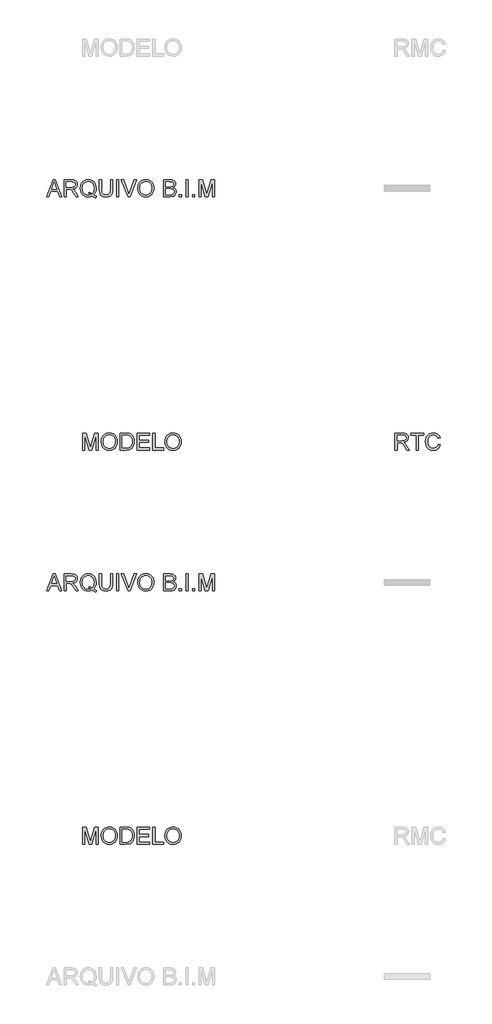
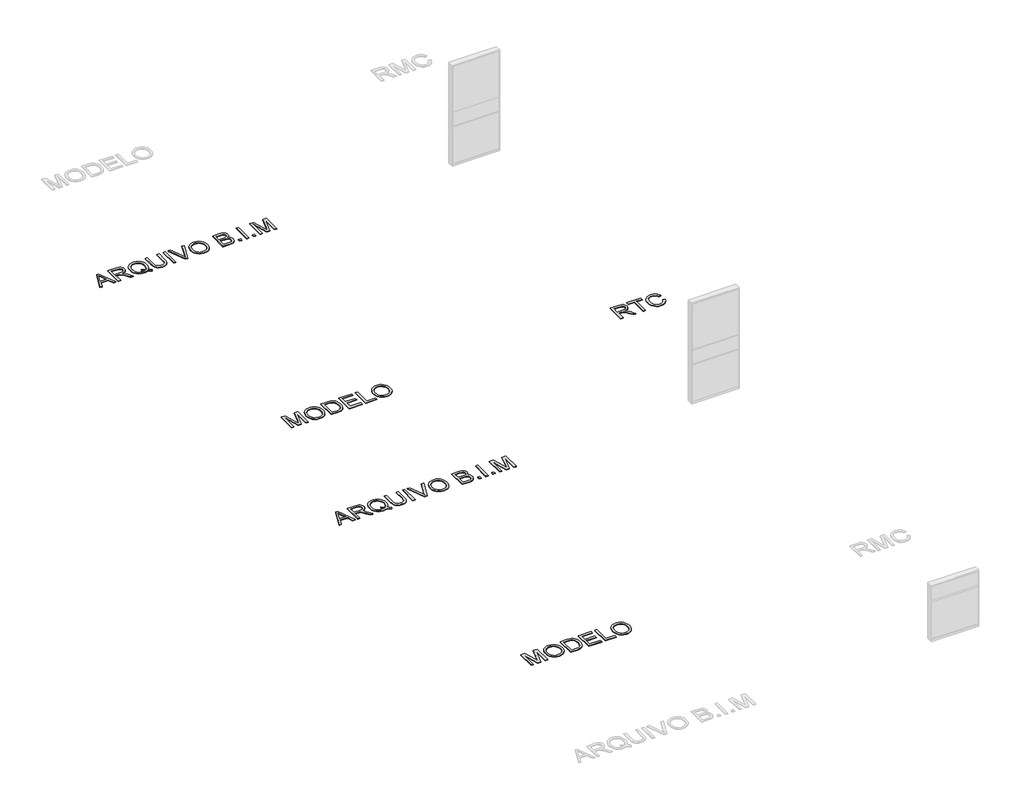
# One storey, part 11 of 15: 5 proxies.
"""IFC4 building model written with IfcOpenShell, lengths in millimetres."""

from ifc_helpers import new_model, si_unit, origin, origin_with_axes, place, context, project, spatial, polyline, outline, extrude, element, save

model = new_model("IFC4")

# Units and contexts
model_context = context("Model", 3, world=origin())
ifc_project = project(units=[si_unit("LENGTHUNIT", "METRE", prefix="MILLI")], contexts=[model_context])

# Site, building, storey
site = spatial("IfcSite", under=ifc_project)
building = spatial("IfcBuilding", under=site)
storey = spatial("IfcBuildingStorey", under=building, Name="Marelli - Linha REASONS - Planta Baixa", Elevation=0.0)

# Proxies
placement = place(None, origin())
element("IfcBuildingElementProxy", 1, Name="300mm Arial", ObjectType="300mm Arial", at=placement, inside=storey, context=model_context, shape_type="SweptSolid", body=[
    extrude(outline(polyline([(9390.580402, -42280.5663201), (9510.8778144, -41979.1973896), (9542.9571244, -41979.1973896), (9663.2545368, -42280.5663201), (9623.449705, -42280.5663201), (9588.9423738, -42186.3885293), (9464.8189886, -42186.3885293), (9430.3852339, -42280.5663201), (9390.580402, -42280.5663201)]), holes=[polyline([(9478.6513517, -42148.717413), (9575.1835872, -42148.717413), (9548.0338959, -42074.6259792), (9526.9174694, -42016.8685059), (9508.1554877, -42068.1512561), (9478.6513517, -42148.717413)])]), origin_with_axes(), (0.0, 0.0, 1.0), 10.0),
    extrude(outline(polyline([(9703.5008271, -42280.5663201), (9703.5008271, -41979.1973896), (9833.3631714, -41979.1973896), (9868.2659757, -41981.2299376), (9893.6590304, -41987.3275817), (9912.2186771, -41998.5847708), (9926.6212572, -42016.0959537), (9935.8642923, -42037.8101885), (9938.945304, -42061.6765329), (9933.8409413, -42091.3646099), (9918.5278533, -42115.9759154), (9906.9280741, -42126.0052983), (9892.5461874, -42134.0205273), (9855.4360911, -42144.0085235), (9876.8468232, -42160.1217548), (9907.3810288, -42198.8965171), (9957.6337094, -42280.5663201), (9913.855752, -42280.5663201), (9874.6395313, -42218.0999573), (9846.3126176, -42176.750021), (9826.4102017, -42157.2154871), (9808.4943485, -42150.0417882), (9786.642158, -42148.717413), (9741.1719434, -42148.717413), (9741.1719434, -42280.5663201), (9703.5008271, -42280.5663201)]), holes=[polyline([(9741.1719434, -42111.0462967), (9825.4904967, -42111.0462967), (9849.706329, -42109.7127245), (9868.4959019, -42105.7120078), (9882.6409647, -42098.7774322), (9892.9232664, -42088.6422832), (9899.1864574, -42076.3826157), (9901.2741877, -42063.0744845), (9897.2918651, -42044.6987789), (9885.3448973, -42029.8915286), (9864.7894908, -42020.1242616), (9834.9818522, -42016.8685059), (9741.1719434, -42016.8685059), (9741.1719434, -42111.0462967)])]), origin_with_axes(), (0.0, 0.0, 1.0), 10.0),
    extrude(outline(polyline([(10231.2643374, -42244.4403081), (10255.5997314, -42263.036743), (10277.9853508, -42275.8574305), (10267.8318077, -42303.4485802), (10236.7641732, -42289.0460001), (10205.8069033, -42268.205485), (10170.9500843, -42281.0077785), (10132.5983863, -42285.2752096), (10094.0627473, -42280.3547879), (10059.2427164, -42265.5935229), (10030.0788713, -42241.9203165), (10008.5117893, -42210.2640708), (9995.185264, -42172.3630282), (9990.7430889, -42129.9554312), (9995.176067, -42087.511046), (10008.4750011, -42049.0581805), (10029.9593096, -42016.9512794), (10058.9484108, -41993.5447874), (10093.639683, -41979.2525719), (10132.2305043, -41974.4885001), (10171.1248282, -41979.3629365), (10205.9908443, -41993.9862458), (10234.9339603, -42017.3835407), (10256.0595839, -42048.5799339), (10268.9722419, -42085.9199564), (10273.2764612, -42127.7481393), (10270.6644991, -42162.5313819), (10262.8286126, -42193.5990164), (10249.7136194, -42220.9142546), (10231.2643374, -42244.4403081)]), holes=[polyline([(10142.9726585, -42194.3347804), (10174.6472983, -42206.3093393), (10200.215097, -42222.9559996), (10215.6983305, -42205.4816049), (10226.7577829, -42184.1076609), (10233.3934544, -42158.8341679), (10235.6053449, -42129.6611256), (10232.478348, -42096.5057608), (10223.0973571, -42067.8201623), (10207.6922985, -42044.3308969), (10186.4930986, -42026.7645316), (10160.934497, -42015.8108452), (10132.4512335, -42012.1596164), (10110.966925, -42014.0059242), (10091.3956028, -42019.5448474), (10073.7372671, -42028.7763863), (10057.9919177, -42041.7005406), (10045.0516685, -42058.2897193), (10035.8086334, -42078.5163313), (10030.2628123, -42102.3803764), (10028.4142052, -42129.8818548), (10030.2421189, -42156.6659634), (10035.7258599, -42180.1437324), (10044.8654282, -42200.3151621), (10057.6608239, -42217.1802523), (10073.2981079, -42230.4906827), (10090.9633415, -42239.9981331), (10110.6565245, -42245.7026032), (10132.3776571, -42247.6040933), (10153.2917485, -42245.6727128), (10172.918253, -42239.8785714), (10153.6228423, -42229.853787), (10133.2605739, -42223.1767288), (10142.9726585, -42194.3347804)])]), origin_with_axes(), (0.0, 0.0, 1.0), 10.0),
    extrude(outline(polyline([(10527.5564963, -41979.1973896), (10565.2276126, -41979.1973896), (10565.2276126, -42153.0584205), (10562.6708327, -42193.7737604), (10555.0004931, -42225.1265034), (10540.6714894, -42249.3147446), (10518.1387172, -42268.5365788), (10487.3469942, -42281.0905519), (10448.2411381, -42285.2752096), (10409.9906077, -42281.6331779), (10379.4104168, -42270.7070826), (10356.4913685, -42252.8740029), (10341.2242657, -42228.5110178), (10332.6434182, -42195.8338995), (10329.7831357, -42153.0584205), (10329.7831357, -41979.1973896), (10367.454252, -41979.1973896), (10367.454252, -42151.7340454), (10369.3120561, -42185.588386), (10374.8854683, -42209.1604248), (10384.9838291, -42225.4851883), (10400.4164788, -42237.597703), (10420.5396239, -42245.1024957), (10444.709471, -42247.6040933), (10483.0243808, -42242.6560805), (10497.3671801, -42236.4710644), (10508.500209, -42227.812042), (10516.8373347, -42215.6351479), (10522.7924245, -42198.8965171), (10527.5564963, -42151.7340454), (10527.5564963, -41979.1973896)])), origin_with_axes(), (0.0, 0.0, 1.0), 10.0),
    extrude(outline(polyline([(10635.8609557, -42280.5663201), (10635.8609557, -41979.1973896), (10673.532072, -41979.1973896), (10673.532072, -42280.5663201), (10635.8609557, -42280.5663201)])), origin_with_axes(), (0.0, 0.0, 1.0), 10.0),
    extrude(outline(polyline([(10837.9017474, -42280.5663201), (10717.972217, -41979.1973896), (10758.2920837, -41979.1973896), (10838.563935, -42196.3213432), (10854.8243192, -42245.2496485), (10870.8639742, -42196.3213432), (10951.3565547, -41979.1973896), (10991.6764214, -41979.1973896), (10876.8236625, -42280.5663201), (10837.9017474, -42280.5663201)])), origin_with_axes(), (0.0, 0.0, 1.0), 10.0),
    extrude(outline(polyline([(11012.5721187, -42133.8549804), (11015.0829134, -42098.5061192), (11022.6152972, -42067.213157), (11035.1692703, -42039.9760937), (11052.7448326, -42016.7949295), (11074.288922, -41998.2858666), (11098.7484761, -41985.0651074), (11126.1234951, -41977.1326519), (11156.4139789, -41974.4885001), (11195.9428992, -41979.454907), (11231.3883295, -41994.3541278), (11260.8188891, -42018.1376988), (11282.3031976, -42049.7571563), (11295.4365848, -42087.68579), (11299.8143806, -42130.3968896), (11295.2066586, -42173.6782064), (11281.3834926, -42212.140269), (11259.1082378, -42243.8149088), (11229.1442493, -42266.733957), (11194.0023217, -42280.6398965), (11156.1932497, -42285.2752096), (11116.057324, -42280.1524528), (11080.4095587, -42264.7841825), (11051.0525754, -42240.5591531), (11029.7889961, -42208.8661192), (11016.8763381, -42172.3998164), (11012.5721187, -42133.8549804)]), holes=[polyline([(11050.2432351, -42134.2228624), (11052.126331, -42159.1974513), (11057.7756189, -42181.3669401), (11067.1910987, -42200.7313286), (11080.3727705, -42217.2906169), (11096.3963306, -42230.5527628), (11114.3374757, -42240.0257242), (11134.1962056, -42245.709501), (11155.9725205, -42247.6040933), (11178.1213158, -42245.6911069), (11198.2145706, -42239.9521478), (11216.2522846, -42230.3872159), (11232.2344581, -42216.9963113), (11245.3195608, -42200.0875351), (11254.6660627, -42179.9689885), (11260.2739639, -42156.6406715), (11262.1432643, -42130.102584), (11258.9426909, -42096.7540812), (11249.3409708, -42067.9305269), (11233.5864244, -42044.358488), (11211.9273719, -42026.7645316), (11185.7985532, -42015.8108452), (11156.6347081, -42012.1596164), (11135.6148506, -42013.9185522), (11116.1125063, -42019.1953595), (11098.1276752, -42027.9900385), (11081.6603574, -42040.302589), (11067.9153664, -42056.7262208), (11058.0975156, -42077.8541437), (11052.2068052, -42103.6863575), (11050.2432351, -42134.2228624)])]), origin_with_axes(), (0.0, 0.0, 1.0), 10.0),
    extrude(outline(polyline([(11469.334404, -42280.5663201), (11469.334404, -41979.1973896), (11584.3343157, -41979.1973896), (11615.9629702, -41981.4138786), (11640.6570491, -41988.0633457), (11659.5845778, -41999.3113377), (11673.9135815, -42015.3234015), (11682.9358874, -42034.1589597), (11685.9433227, -42053.8774346), (11683.414134, -42072.0232141), (11675.8265679, -42089.0837416), (11663.125442, -42104.0105535), (11645.2555741, -42115.7551862), (11666.6019268, -42126.9020107), (11682.3748674, -42143.8613707), (11692.1145432, -42165.5112261), (11695.3611018, -42190.7295368), (11693.1446128, -42211.7447958), (11686.4951457, -42231.2333445), (11676.5715289, -42247.8064284), (11664.5325906, -42260.0752929), (11649.7897196, -42268.9596431), (11631.7543048, -42275.3791839), (11583.4513989, -42280.5663201), (11469.334404, -42280.5663201)]), holes=[polyline([(11507.0055203, -42101.6285176), (11575.7994534, -42101.6285176), (11615.9721672, -42098.3911561), (11630.0344565, -42092.8085468), (11640.1420143, -42084.4484284), (11646.2396584, -42073.4395597), (11648.2722064, -42059.9106994), (11646.3776141, -42046.7773121), (11640.6938373, -42035.3361821), (11631.4783933, -42026.4058467), (11618.9887996, -42020.8048433), (11570.575529, -42016.8685059), (11507.0055203, -42016.8685059), (11507.0055203, -42101.6285176)]), polyline([(11507.0055203, -42242.8952038), (11584.2607393, -42242.8952038), (11612.2197709, -42241.4236758), (11635.8745832, -42233.2199073), (11651.5463562, -42216.4812765), (11656.1540782, -42204.6538704), (11657.6899855, -42191.0974188), (11655.8873637, -42175.3520694), (11650.4794984, -42161.814012), (11641.0341282, -42151.2282076), (11627.1189917, -42144.3396173), (11607.4097138, -42140.5596298), (11580.5819193, -42139.2996339), (11507.0055203, -42139.2996339), (11507.0055203, -42242.8952038)])]), origin_with_axes(), (0.0, 0.0, 1.0), 10.0),
    extrude(outline(polyline([(11751.8677763, -42280.5663201), (11751.8677763, -42242.8952038), (11789.5388926, -42242.8952038), (11789.5388926, -42280.5663201), (11751.8677763, -42280.5663201)])), origin_with_axes(), (0.0, 0.0, 1.0), 10.0),
    extrude(outline(polyline([(11869.5900147, -42280.5663201), (11869.5900147, -41979.1973896), (11907.261131, -41979.1973896), (11907.261131, -42280.5663201), (11869.5900147, -42280.5663201)])), origin_with_axes(), (0.0, 0.0, 1.0), 10.0),
    extrude(outline(polyline([(11987.3122532, -42280.5663201), (11987.3122532, -42242.8952038), (12024.9833695, -42242.8952038), (12024.9833695, -42280.5663201), (11987.3122532, -42280.5663201)])), origin_with_axes(), (0.0, 0.0, 1.0), 10.0),
    extrude(outline(polyline([(12100.3256021, -42280.5663201), (12100.3256021, -41979.1973896), (12165.1464096, -41979.1973896), (12226.803432, -42191.6124536), (12239.2378435, -42235.9790223), (12252.7023245, -42187.9336337), (12313.3292773, -41979.1973896), (12378.1500848, -41979.1973896), (12378.1500848, -42280.5663201), (12340.4789685, -42280.5663201), (12340.4789685, -42016.8685059), (12264.7688539, -42280.5663201), (12213.706833, -42280.5663201), (12137.9967184, -42016.8685059), (12137.9967184, -42280.5663201), (12100.3256021, -42280.5663201)])), origin_with_axes(), (0.0, 0.0, 1.0), 10.0),
])
element("IfcBuildingElementProxy", 2, Name="300mm Arial", ObjectType="300mm Arial", at=placement, inside=storey, context=model_context, shape_type="SweptSolid", body=[
    extrude(outline(polyline([(10033.1230948, -39780.5663201), (10033.1230948, -39479.1973896), (10097.9439023, -39479.1973896), (10159.6009247, -39691.6124536), (10172.0353362, -39735.9790223), (10185.4998172, -39687.9336337), (10246.12677, -39479.1973896), (10310.9475775, -39479.1973896), (10310.9475775, -39780.5663201), (10273.2764612, -39780.5663201), (10273.2764612, -39516.8685059), (10197.5663466, -39780.5663201), (10146.5043257, -39780.5663201), (10070.7942111, -39516.8685059), (10070.7942111, -39780.5663201), (10033.1230948, -39780.5663201)])), origin_with_axes(), (0.0, 0.0, 1.0), 10.0),
    extrude(outline(polyline([(10362.7453625, -39633.8549804), (10365.2561571, -39598.5061192), (10372.7885409, -39567.213157), (10385.342514, -39539.9760937), (10402.9180763, -39516.7949295), (10424.4621657, -39498.2858666), (10448.9217198, -39485.0651074), (10476.2967388, -39477.1326519), (10506.5872226, -39474.4885001), (10546.116143, -39479.454907), (10581.5615732, -39494.3541278), (10610.9921328, -39518.1376988), (10632.4764413, -39549.7571563), (10645.6098286, -39587.68579), (10649.9876243, -39630.3968896), (10645.3799023, -39673.6782064), (10631.5567363, -39712.140269), (10609.2814815, -39743.8149088), (10579.317493, -39766.733957), (10544.1755654, -39780.6398965), (10506.3664934, -39785.2752096), (10466.2305677, -39780.1524528), (10430.5828024, -39764.7841825), (10401.2258192, -39740.5591531), (10379.9622398, -39708.8661192), (10367.0495818, -39672.3998164), (10362.7453625, -39633.8549804)]), holes=[polyline([(10400.4164788, -39634.2228624), (10402.2995747, -39659.1974513), (10407.9488626, -39681.3669401), (10417.3643424, -39700.7313286), (10430.5460142, -39717.2906169), (10446.5695743, -39730.5527628), (10464.5107194, -39740.0257242), (10484.3694493, -39745.709501), (10506.1457642, -39747.6040933), (10528.2945596, -39745.6911069), (10548.3878143, -39739.9521478), (10566.4255284, -39730.3872159), (10582.4077018, -39716.9963113), (10595.4928045, -39700.0875351), (10604.8393064, -39679.9689885), (10610.4472076, -39656.6406715), (10612.316508, -39630.102584), (10609.1159346, -39596.7540812), (10599.5142146, -39567.9305269), (10583.7596681, -39544.358488), (10562.1006157, -39526.7645316), (10535.9717969, -39515.8108452), (10506.8079518, -39512.1596164), (10485.7880943, -39513.9185522), (10466.28575, -39519.1953595), (10448.300919, -39527.9900385), (10431.8336012, -39540.302589), (10418.0886101, -39556.7262208), (10408.2707594, -39577.8541437), (10402.3800489, -39603.6863575), (10400.4164788, -39634.2228624)])]), origin_with_axes(), (0.0, 0.0, 1.0), 10.0),
    extrude(outline(polyline([(10701.7854092, -39780.5663201), (10701.7854092, -39479.1973896), (10805.7488611, -39479.1973896), (10859.5332088, -39483.5383972), (10883.555903, -39491.9077126), (10903.826201, -39505.0962821), (10924.666716, -39528.0521186), (10939.5107545, -39556.5997614), (10948.3951047, -39590.1873876), (10951.3565547, -39628.2631741), (10949.3515979, -39660.6091985), (10943.3367273, -39689.0740679), (10934.1764656, -39713.3082943), (10922.7353355, -39732.9623899), (10909.5651601, -39748.477813), (10895.2177623, -39760.2960221), (10878.745846, -39769.0608107), (10859.202115, -39775.4159721), (10810.7520562, -39780.5663201), (10701.7854092, -39780.5663201)]), holes=[polyline([(10739.4565255, -39742.8952038), (10806.1167431, -39742.8952038), (10833.6894986, -39741.5340404), (10854.60359, -39737.4505502), (10870.3857276, -39730.8838566), (10882.5626217, -39722.0730828), (10895.6500236, -39705.7667134), (10905.48167, -39684.6594839), (10911.6344963, -39658.6594239), (10913.6854384, -39627.6745629), (10909.6663276, -39586.6189322), (10897.6089953, -39556.3054558), (10879.7943096, -39535.4833349), (10858.5031392, -39522.9017706), (10836.8348897, -39518.3768221), (10805.0866735, -39516.8685059), (10739.4565255, -39516.8685059), (10739.4565255, -39742.8952038)])]), origin_with_axes(), (0.0, 0.0, 1.0), 10.0),
    extrude(outline(polyline([(11003.1543397, -39780.5663201), (11003.1543397, -39479.1973896), (11219.7632584, -39479.1973896), (11219.7632584, -39516.8685059), (11040.825456, -39516.8685059), (11040.825456, -39606.3374072), (11210.3454794, -39606.3374072), (11210.3454794, -39644.0085235), (11040.825456, -39644.0085235), (11040.825456, -39742.8952038), (11224.472148, -39742.8952038), (11224.472148, -39780.5663201), (11003.1543397, -39780.5663201)])), origin_with_axes(), (0.0, 0.0, 1.0), 10.0),
    extrude(outline(polyline([(11280.9788224, -39780.5663201), (11280.9788224, -39479.1973896), (11318.6499387, -39479.1973896), (11318.6499387, -39742.8952038), (11469.334404, -39742.8952038), (11469.334404, -39780.5663201), (11280.9788224, -39780.5663201)])), origin_with_axes(), (0.0, 0.0, 1.0), 10.0),
    extrude(outline(polyline([(11497.5877412, -39633.8549804), (11500.0985358, -39598.5061192), (11507.6309197, -39567.213157), (11520.1848927, -39539.9760937), (11537.7604551, -39516.7949295), (11559.3045444, -39498.2858666), (11583.7640986, -39485.0651074), (11611.1391175, -39477.1326519), (11641.4296013, -39474.4885001), (11680.9585217, -39479.454907), (11716.4039519, -39494.3541278), (11745.8345115, -39518.1376988), (11767.3188201, -39549.7571563), (11780.4522073, -39587.68579), (11784.830003, -39630.3968896), (11780.222281, -39673.6782064), (11766.3991151, -39712.140269), (11744.1238603, -39743.8149088), (11714.1598717, -39766.733957), (11679.0179442, -39780.6398965), (11641.2088721, -39785.2752096), (11601.0729464, -39780.1524528), (11565.4251811, -39764.7841825), (11536.0681979, -39740.5591531), (11514.8046186, -39708.8661192), (11501.8919605, -39672.3998164), (11497.5877412, -39633.8549804)]), holes=[polyline([(11535.2588575, -39634.2228624), (11537.1419535, -39659.1974513), (11542.7912413, -39681.3669401), (11552.2067212, -39700.7313286), (11565.3883929, -39717.2906169), (11581.4119531, -39730.5527628), (11599.3530981, -39740.0257242), (11619.2118281, -39745.709501), (11640.9881429, -39747.6040933), (11663.1369383, -39745.6911069), (11683.230193, -39739.9521478), (11701.2679071, -39730.3872159), (11717.2500805, -39716.9963113), (11730.3351832, -39700.0875351), (11739.6816852, -39679.9689885), (11745.2895863, -39656.6406715), (11747.1588867, -39630.102584), (11743.9583134, -39596.7540812), (11734.3565933, -39567.9305269), (11718.6020468, -39544.358488), (11696.9429944, -39526.7645316), (11670.8141757, -39515.8108452), (11641.6503305, -39512.1596164), (11620.630473, -39513.9185522), (11601.1281287, -39519.1953595), (11583.1432977, -39527.9900385), (11566.6759799, -39540.302589), (11552.9309888, -39556.7262208), (11543.1131381, -39577.8541437), (11537.2224276, -39603.6863575), (11535.2588575, -39634.2228624)])]), origin_with_axes(), (0.0, 0.0, 1.0), 10.0),
])
element("IfcBuildingElementProxy", 3, Name="300mm Arial", ObjectType="300mm Arial", at=placement, inside=storey, context=model_context, shape_type="SweptSolid", body=[
    extrude(outline(polyline([(9390.580402, -35280.5663201), (9510.8778144, -34979.1973896), (9542.9571244, -34979.1973896), (9663.2545368, -35280.5663201), (9623.449705, -35280.5663201), (9588.9423738, -35186.3885293), (9464.8189886, -35186.3885293), (9430.3852339, -35280.5663201), (9390.580402, -35280.5663201)]), holes=[polyline([(9478.6513517, -35148.717413), (9575.1835872, -35148.717413), (9548.0338959, -35074.6259792), (9526.9174694, -35016.8685059), (9508.1554877, -35068.1512561), (9478.6513517, -35148.717413)])]), origin_with_axes(), (0.0, 0.0, 1.0), 10.0),
    extrude(outline(polyline([(9703.5008271, -35280.5663201), (9703.5008271, -34979.1973896), (9833.3631714, -34979.1973896), (9868.2659757, -34981.2299376), (9893.6590304, -34987.3275817), (9912.2186771, -34998.5847708), (9926.6212572, -35016.0959537), (9935.8642923, -35037.8101885), (9938.945304, -35061.6765329), (9933.8409413, -35091.3646099), (9918.5278533, -35115.9759154), (9906.9280741, -35126.0052983), (9892.5461874, -35134.0205273), (9855.4360911, -35144.0085235), (9876.8468232, -35160.1217548), (9907.3810288, -35198.8965171), (9957.6337094, -35280.5663201), (9913.855752, -35280.5663201), (9874.6395313, -35218.0999573), (9846.3126176, -35176.750021), (9826.4102017, -35157.2154871), (9808.4943485, -35150.0417882), (9786.642158, -35148.717413), (9741.1719434, -35148.717413), (9741.1719434, -35280.5663201), (9703.5008271, -35280.5663201)]), holes=[polyline([(9741.1719434, -35111.0462967), (9825.4904967, -35111.0462967), (9849.706329, -35109.7127245), (9868.4959019, -35105.7120078), (9882.6409647, -35098.7774322), (9892.9232664, -35088.6422832), (9899.1864574, -35076.3826157), (9901.2741877, -35063.0744845), (9897.2918651, -35044.6987789), (9885.3448973, -35029.8915286), (9864.7894908, -35020.1242616), (9834.9818522, -35016.8685059), (9741.1719434, -35016.8685059), (9741.1719434, -35111.0462967)])]), origin_with_axes(), (0.0, 0.0, 1.0), 10.0),
    extrude(outline(polyline([(10231.2643374, -35244.4403081), (10255.5997314, -35263.036743), (10277.9853508, -35275.8574305), (10267.8318077, -35303.4485802), (10236.7641732, -35289.0460001), (10205.8069033, -35268.205485), (10170.9500843, -35281.0077785), (10132.5983863, -35285.2752096), (10094.0627473, -35280.3547879), (10059.2427164, -35265.5935229), (10030.0788713, -35241.9203165), (10008.5117893, -35210.2640708), (9995.185264, -35172.3630282), (9990.7430889, -35129.9554312), (9995.176067, -35087.511046), (10008.4750011, -35049.0581805), (10029.9593096, -35016.9512794), (10058.9484108, -34993.5447874), (10093.639683, -34979.2525719), (10132.2305043, -34974.4885001), (10171.1248282, -34979.3629365), (10205.9908443, -34993.9862458), (10234.9339603, -35017.3835407), (10256.0595839, -35048.5799339), (10268.9722419, -35085.9199564), (10273.2764612, -35127.7481393), (10270.6644991, -35162.5313819), (10262.8286126, -35193.5990164), (10249.7136194, -35220.9142546), (10231.2643374, -35244.4403081)]), holes=[polyline([(10142.9726585, -35194.3347804), (10174.6472983, -35206.3093393), (10200.215097, -35222.9559996), (10215.6983305, -35205.4816049), (10226.7577829, -35184.1076609), (10233.3934544, -35158.8341679), (10235.6053449, -35129.6611256), (10232.478348, -35096.5057608), (10223.0973571, -35067.8201623), (10207.6922985, -35044.3308969), (10186.4930986, -35026.7645316), (10160.934497, -35015.8108452), (10132.4512335, -35012.1596164), (10110.966925, -35014.0059242), (10091.3956028, -35019.5448474), (10073.7372671, -35028.7763863), (10057.9919177, -35041.7005406), (10045.0516685, -35058.2897193), (10035.8086334, -35078.5163313), (10030.2628123, -35102.3803764), (10028.4142052, -35129.8818548), (10030.2421189, -35156.6659634), (10035.7258599, -35180.1437324), (10044.8654282, -35200.3151621), (10057.6608239, -35217.1802523), (10073.2981079, -35230.4906827), (10090.9633415, -35239.9981331), (10110.6565245, -35245.7026032), (10132.3776571, -35247.6040933), (10153.2917485, -35245.6727128), (10172.918253, -35239.8785714), (10153.6228423, -35229.853787), (10133.2605739, -35223.1767288), (10142.9726585, -35194.3347804)])]), origin_with_axes(), (0.0, 0.0, 1.0), 10.0),
    extrude(outline(polyline([(10527.5564963, -34979.1973896), (10565.2276126, -34979.1973896), (10565.2276126, -35153.0584205), (10562.6708327, -35193.7737604), (10555.0004931, -35225.1265034), (10540.6714894, -35249.3147446), (10518.1387172, -35268.5365788), (10487.3469942, -35281.0905519), (10448.2411381, -35285.2752096), (10409.9906077, -35281.6331779), (10379.4104168, -35270.7070826), (10356.4913685, -35252.8740029), (10341.2242657, -35228.5110178), (10332.6434182, -35195.8338995), (10329.7831357, -35153.0584205), (10329.7831357, -34979.1973896), (10367.454252, -34979.1973896), (10367.454252, -35151.7340454), (10369.3120561, -35185.588386), (10374.8854683, -35209.1604248), (10384.9838291, -35225.4851883), (10400.4164788, -35237.597703), (10420.5396239, -35245.1024957), (10444.709471, -35247.6040933), (10483.0243808, -35242.6560805), (10497.3671801, -35236.4710644), (10508.500209, -35227.812042), (10516.8373347, -35215.6351479), (10522.7924245, -35198.8965171), (10527.5564963, -35151.7340454), (10527.5564963, -34979.1973896)])), origin_with_axes(), (0.0, 0.0, 1.0), 10.0),
    extrude(outline(polyline([(10635.8609557, -35280.5663201), (10635.8609557, -34979.1973896), (10673.532072, -34979.1973896), (10673.532072, -35280.5663201), (10635.8609557, -35280.5663201)])), origin_with_axes(), (0.0, 0.0, 1.0), 10.0),
    extrude(outline(polyline([(10837.9017474, -35280.5663201), (10717.972217, -34979.1973896), (10758.2920837, -34979.1973896), (10838.563935, -35196.3213432), (10854.8243192, -35245.2496485), (10870.8639742, -35196.3213432), (10951.3565547, -34979.1973896), (10991.6764214, -34979.1973896), (10876.8236625, -35280.5663201), (10837.9017474, -35280.5663201)])), origin_with_axes(), (0.0, 0.0, 1.0), 10.0),
    extrude(outline(polyline([(11012.5721187, -35133.8549804), (11015.0829134, -35098.5061192), (11022.6152972, -35067.213157), (11035.1692703, -35039.9760937), (11052.7448326, -35016.7949295), (11074.288922, -34998.2858666), (11098.7484761, -34985.0651074), (11126.1234951, -34977.1326519), (11156.4139789, -34974.4885001), (11195.9428992, -34979.454907), (11231.3883295, -34994.3541278), (11260.8188891, -35018.1376988), (11282.3031976, -35049.7571563), (11295.4365848, -35087.68579), (11299.8143806, -35130.3968896), (11295.2066586, -35173.6782064), (11281.3834926, -35212.140269), (11259.1082378, -35243.8149088), (11229.1442493, -35266.733957), (11194.0023217, -35280.6398965), (11156.1932497, -35285.2752096), (11116.057324, -35280.1524528), (11080.4095587, -35264.7841825), (11051.0525754, -35240.5591531), (11029.7889961, -35208.8661192), (11016.8763381, -35172.3998164), (11012.5721187, -35133.8549804)]), holes=[polyline([(11050.2432351, -35134.2228624), (11052.126331, -35159.1974513), (11057.7756189, -35181.3669401), (11067.1910987, -35200.7313286), (11080.3727705, -35217.2906169), (11096.3963306, -35230.5527628), (11114.3374757, -35240.0257242), (11134.1962056, -35245.709501), (11155.9725205, -35247.6040933), (11178.1213158, -35245.6911069), (11198.2145706, -35239.9521478), (11216.2522846, -35230.3872159), (11232.2344581, -35216.9963113), (11245.3195608, -35200.0875351), (11254.6660627, -35179.9689885), (11260.2739639, -35156.6406715), (11262.1432643, -35130.102584), (11258.9426909, -35096.7540812), (11249.3409708, -35067.9305269), (11233.5864244, -35044.358488), (11211.9273719, -35026.7645316), (11185.7985532, -35015.8108452), (11156.6347081, -35012.1596164), (11135.6148506, -35013.9185522), (11116.1125063, -35019.1953595), (11098.1276752, -35027.9900385), (11081.6603574, -35040.302589), (11067.9153664, -35056.7262208), (11058.0975156, -35077.8541437), (11052.2068052, -35103.6863575), (11050.2432351, -35134.2228624)])]), origin_with_axes(), (0.0, 0.0, 1.0), 10.0),
    extrude(outline(polyline([(11469.334404, -35280.5663201), (11469.334404, -34979.1973896), (11584.3343157, -34979.1973896), (11615.9629702, -34981.4138786), (11640.6570491, -34988.0633457), (11659.5845778, -34999.3113377), (11673.9135815, -35015.3234015), (11682.9358874, -35034.1589597), (11685.9433227, -35053.8774346), (11683.414134, -35072.0232141), (11675.8265679, -35089.0837416), (11663.125442, -35104.0105535), (11645.2555741, -35115.7551862), (11666.6019268, -35126.9020107), (11682.3748674, -35143.8613707), (11692.1145432, -35165.5112261), (11695.3611018, -35190.7295368), (11693.1446128, -35211.7447958), (11686.4951457, -35231.2333445), (11676.5715289, -35247.8064284), (11664.5325906, -35260.0752929), (11649.7897196, -35268.9596431), (11631.7543048, -35275.3791839), (11583.4513989, -35280.5663201), (11469.334404, -35280.5663201)]), holes=[polyline([(11507.0055203, -35101.6285176), (11575.7994534, -35101.6285176), (11615.9721672, -35098.3911561), (11630.0344565, -35092.8085468), (11640.1420143, -35084.4484284), (11646.2396584, -35073.4395597), (11648.2722064, -35059.9106994), (11646.3776141, -35046.7773121), (11640.6938373, -35035.3361821), (11631.4783933, -35026.4058467), (11618.9887996, -35020.8048433), (11570.575529, -35016.8685059), (11507.0055203, -35016.8685059), (11507.0055203, -35101.6285176)]), polyline([(11507.0055203, -35242.8952038), (11584.2607393, -35242.8952038), (11612.2197709, -35241.4236758), (11635.8745832, -35233.2199073), (11651.5463562, -35216.4812765), (11656.1540782, -35204.6538704), (11657.6899855, -35191.0974188), (11655.8873637, -35175.3520694), (11650.4794984, -35161.814012), (11641.0341282, -35151.2282076), (11627.1189917, -35144.3396173), (11607.4097138, -35140.5596298), (11580.5819193, -35139.2996339), (11507.0055203, -35139.2996339), (11507.0055203, -35242.8952038)])]), origin_with_axes(), (0.0, 0.0, 1.0), 10.0),
    extrude(outline(polyline([(11751.8677763, -35280.5663201), (11751.8677763, -35242.8952038), (11789.5388926, -35242.8952038), (11789.5388926, -35280.5663201), (11751.8677763, -35280.5663201)])), origin_with_axes(), (0.0, 0.0, 1.0), 10.0),
    extrude(outline(polyline([(11869.5900147, -35280.5663201), (11869.5900147, -34979.1973896), (11907.261131, -34979.1973896), (11907.261131, -35280.5663201), (11869.5900147, -35280.5663201)])), origin_with_axes(), (0.0, 0.0, 1.0), 10.0),
    extrude(outline(polyline([(11987.3122532, -35280.5663201), (11987.3122532, -35242.8952038), (12024.9833695, -35242.8952038), (12024.9833695, -35280.5663201), (11987.3122532, -35280.5663201)])), origin_with_axes(), (0.0, 0.0, 1.0), 10.0),
    extrude(outline(polyline([(12100.3256021, -35280.5663201), (12100.3256021, -34979.1973896), (12165.1464096, -34979.1973896), (12226.803432, -35191.6124536), (12239.2378435, -35235.9790223), (12252.7023245, -35187.9336337), (12313.3292773, -34979.1973896), (12378.1500848, -34979.1973896), (12378.1500848, -35280.5663201), (12340.4789685, -35280.5663201), (12340.4789685, -35016.8685059), (12264.7688539, -35280.5663201), (12213.706833, -35280.5663201), (12137.9967184, -35016.8685059), (12137.9967184, -35280.5663201), (12100.3256021, -35280.5663201)])), origin_with_axes(), (0.0, 0.0, 1.0), 10.0),
])
element("IfcBuildingElementProxy", 4, Name="300mm Arial", ObjectType="300mm Arial", at=placement, inside=storey, context=model_context, shape_type="SweptSolid", body=[
    extrude(outline(polyline([(10033.1230948, -46780.5663201), (10033.1230948, -46479.1973896), (10097.9439023, -46479.1973896), (10159.6009247, -46691.6124536), (10172.0353362, -46735.9790223), (10185.4998172, -46687.9336337), (10246.12677, -46479.1973896), (10310.9475775, -46479.1973896), (10310.9475775, -46780.5663201), (10273.2764612, -46780.5663201), (10273.2764612, -46516.8685059), (10197.5663466, -46780.5663201), (10146.5043257, -46780.5663201), (10070.7942111, -46516.8685059), (10070.7942111, -46780.5663201), (10033.1230948, -46780.5663201)])), origin_with_axes(), (0.0, 0.0, 1.0), 10.0),
    extrude(outline(polyline([(10362.7453625, -46633.8549804), (10365.2561571, -46598.5061192), (10372.7885409, -46567.213157), (10385.342514, -46539.9760937), (10402.9180763, -46516.7949295), (10424.4621657, -46498.2858666), (10448.9217198, -46485.0651074), (10476.2967388, -46477.1326519), (10506.5872226, -46474.4885001), (10546.116143, -46479.454907), (10581.5615732, -46494.3541278), (10610.9921328, -46518.1376988), (10632.4764413, -46549.7571563), (10645.6098286, -46587.68579), (10649.9876243, -46630.3968896), (10645.3799023, -46673.6782064), (10631.5567363, -46712.140269), (10609.2814815, -46743.8149088), (10579.317493, -46766.733957), (10544.1755654, -46780.6398965), (10506.3664934, -46785.2752096), (10466.2305677, -46780.1524528), (10430.5828024, -46764.7841825), (10401.2258192, -46740.5591531), (10379.9622398, -46708.8661192), (10367.0495818, -46672.3998164), (10362.7453625, -46633.8549804)]), holes=[polyline([(10400.4164788, -46634.2228624), (10402.2995747, -46659.1974513), (10407.9488626, -46681.3669401), (10417.3643424, -46700.7313286), (10430.5460142, -46717.2906169), (10446.5695743, -46730.5527628), (10464.5107194, -46740.0257242), (10484.3694493, -46745.709501), (10506.1457642, -46747.6040933), (10528.2945596, -46745.6911069), (10548.3878143, -46739.9521478), (10566.4255284, -46730.3872159), (10582.4077018, -46716.9963113), (10595.4928045, -46700.0875351), (10604.8393064, -46679.9689885), (10610.4472076, -46656.6406715), (10612.316508, -46630.102584), (10609.1159346, -46596.7540812), (10599.5142146, -46567.9305269), (10583.7596681, -46544.358488), (10562.1006157, -46526.7645316), (10535.9717969, -46515.8108452), (10506.8079518, -46512.1596164), (10485.7880943, -46513.9185522), (10466.28575, -46519.1953595), (10448.300919, -46527.9900385), (10431.8336012, -46540.302589), (10418.0886101, -46556.7262208), (10408.2707594, -46577.8541437), (10402.3800489, -46603.6863575), (10400.4164788, -46634.2228624)])]), origin_with_axes(), (0.0, 0.0, 1.0), 10.0),
    extrude(outline(polyline([(10701.7854092, -46780.5663201), (10701.7854092, -46479.1973896), (10805.7488611, -46479.1973896), (10859.5332088, -46483.5383972), (10883.555903, -46491.9077126), (10903.826201, -46505.0962821), (10924.666716, -46528.0521186), (10939.5107545, -46556.5997614), (10948.3951047, -46590.1873876), (10951.3565547, -46628.2631741), (10949.3515979, -46660.6091985), (10943.3367273, -46689.0740679), (10934.1764656, -46713.3082943), (10922.7353355, -46732.9623899), (10909.5651601, -46748.477813), (10895.2177623, -46760.2960221), (10878.745846, -46769.0608107), (10859.202115, -46775.4159721), (10810.7520562, -46780.5663201), (10701.7854092, -46780.5663201)]), holes=[polyline([(10739.4565255, -46742.8952038), (10806.1167431, -46742.8952038), (10833.6894986, -46741.5340404), (10854.60359, -46737.4505502), (10870.3857276, -46730.8838566), (10882.5626217, -46722.0730828), (10895.6500236, -46705.7667134), (10905.48167, -46684.6594839), (10911.6344963, -46658.6594239), (10913.6854384, -46627.6745629), (10909.6663276, -46586.6189322), (10897.6089953, -46556.3054558), (10879.7943096, -46535.4833349), (10858.5031392, -46522.9017706), (10836.8348897, -46518.3768221), (10805.0866735, -46516.8685059), (10739.4565255, -46516.8685059), (10739.4565255, -46742.8952038)])]), origin_with_axes(), (0.0, 0.0, 1.0), 10.0),
    extrude(outline(polyline([(11003.1543397, -46780.5663201), (11003.1543397, -46479.1973896), (11219.7632584, -46479.1973896), (11219.7632584, -46516.8685059), (11040.825456, -46516.8685059), (11040.825456, -46606.3374072), (11210.3454794, -46606.3374072), (11210.3454794, -46644.0085235), (11040.825456, -46644.0085235), (11040.825456, -46742.8952038), (11224.472148, -46742.8952038), (11224.472148, -46780.5663201), (11003.1543397, -46780.5663201)])), origin_with_axes(), (0.0, 0.0, 1.0), 10.0),
    extrude(outline(polyline([(11280.9788224, -46780.5663201), (11280.9788224, -46479.1973896), (11318.6499387, -46479.1973896), (11318.6499387, -46742.8952038), (11469.334404, -46742.8952038), (11469.334404, -46780.5663201), (11280.9788224, -46780.5663201)])), origin_with_axes(), (0.0, 0.0, 1.0), 10.0),
    extrude(outline(polyline([(11497.5877412, -46633.8549804), (11500.0985358, -46598.5061192), (11507.6309197, -46567.213157), (11520.1848927, -46539.9760937), (11537.7604551, -46516.7949295), (11559.3045444, -46498.2858666), (11583.7640986, -46485.0651074), (11611.1391175, -46477.1326519), (11641.4296013, -46474.4885001), (11680.9585217, -46479.454907), (11716.4039519, -46494.3541278), (11745.8345115, -46518.1376988), (11767.3188201, -46549.7571563), (11780.4522073, -46587.68579), (11784.830003, -46630.3968896), (11780.222281, -46673.6782064), (11766.3991151, -46712.140269), (11744.1238603, -46743.8149088), (11714.1598717, -46766.733957), (11679.0179442, -46780.6398965), (11641.2088721, -46785.2752096), (11601.0729464, -46780.1524528), (11565.4251811, -46764.7841825), (11536.0681979, -46740.5591531), (11514.8046186, -46708.8661192), (11501.8919605, -46672.3998164), (11497.5877412, -46633.8549804)]), holes=[polyline([(11535.2588575, -46634.2228624), (11537.1419535, -46659.1974513), (11542.7912413, -46681.3669401), (11552.2067212, -46700.7313286), (11565.3883929, -46717.2906169), (11581.4119531, -46730.5527628), (11599.3530981, -46740.0257242), (11619.2118281, -46745.709501), (11640.9881429, -46747.6040933), (11663.1369383, -46745.6911069), (11683.230193, -46739.9521478), (11701.2679071, -46730.3872159), (11717.2500805, -46716.9963113), (11730.3351832, -46700.0875351), (11739.6816852, -46679.9689885), (11745.2895863, -46656.6406715), (11747.1588867, -46630.102584), (11743.9583134, -46596.7540812), (11734.3565933, -46567.9305269), (11718.6020468, -46544.358488), (11696.9429944, -46526.7645316), (11670.8141757, -46515.8108452), (11641.6503305, -46512.1596164), (11620.630473, -46513.9185522), (11601.1281287, -46519.1953595), (11583.1432977, -46527.9900385), (11566.6759799, -46540.302589), (11552.9309888, -46556.7262208), (11543.1131381, -46577.8541437), (11537.2224276, -46603.6863575), (11535.2588575, -46634.2228624)])]), origin_with_axes(), (0.0, 0.0, 1.0), 10.0),
])
element("IfcBuildingElementProxy", 5, Name="300mm Arial", ObjectType="300mm Arial", at=placement, inside=storey, context=model_context, shape_type="SweptSolid", body=[
    extrude(outline(polyline([(15588.7720603, -39780.5663201), (15588.7720603, -39479.1973896), (15718.6344046, -39479.1973896), (15753.5372089, -39481.2299376), (15778.9302636, -39487.3275817), (15797.4899103, -39498.5847708), (15811.8924904, -39516.0959537), (15821.1355255, -39537.8101885), (15824.2165372, -39561.6765329), (15819.1121745, -39591.3646099), (15803.7990865, -39615.9759154), (15792.1993073, -39626.0052983), (15777.8174206, -39634.0205273), (15740.7073243, -39644.0085235), (15762.1180564, -39660.1217548), (15792.652262, -39698.8965171), (15842.9049426, -39780.5663201), (15799.1269851, -39780.5663201), (15759.9107645, -39718.0999573), (15731.5838508, -39676.750021), (15711.6814349, -39657.2154871), (15693.7655817, -39650.0417882), (15671.9133912, -39648.717413), (15626.4431766, -39648.717413), (15626.4431766, -39780.5663201), (15588.7720603, -39780.5663201)]), holes=[polyline([(15626.4431766, -39611.0462967), (15710.7617299, -39611.0462967), (15734.9775622, -39609.7127245), (15753.7671351, -39605.7120078), (15767.9121979, -39598.7774322), (15778.1944996, -39588.6422832), (15784.4576906, -39576.3826157), (15786.5454209, -39563.0744845), (15782.5630983, -39544.6987789), (15770.6161305, -39529.8915286), (15750.060724, -39520.1242616), (15720.2530854, -39516.8685059), (15626.4431766, -39516.8685059), (15626.4431766, -39611.0462967)])]), origin_with_axes(), (0.0, 0.0, 1.0), 10.0),
    extrude(outline(polyline([(15965.4832234, -39780.5663201), (15965.4832234, -39516.8685059), (15866.5965431, -39516.8685059), (15866.5965431, -39479.1973896), (16102.04102, -39479.1973896), (16102.04102, -39516.8685059), (16003.1543397, -39516.8685059), (16003.1543397, -39780.5663201), (15965.4832234, -39780.5663201)])), origin_with_axes(), (0.0, 0.0, 1.0), 10.0),
    extrude(outline(polyline([(16356.321055, -39673.4390831), (16393.9921713, -39683.1511677), (16386.5379624, -39706.5783531), (16376.6097471, -39727.0486868), (16364.2075253, -39744.5621691), (16349.3312971, -39759.1187997), (16332.3167549, -39770.5622291), (16313.4995908, -39778.7361071), (16292.879805, -39783.640434), (16270.4573974, -39785.2752096), (16226.7622134, -39780.3271968), (16192.0617442, -39765.4831583), (16165.4638759, -39741.2581289), (16146.0764948, -39708.1671434), (16134.2398916, -39669.2636224), (16130.2943572, -39627.6009865), (16134.7549264, -39583.6574821), (16148.136634, -39545.7104543), (16169.7405041, -39514.9647166), (16198.8675611, -39492.6250824), (16233.4116805, -39479.0226457), (16271.2667378, -39474.4885001), (16312.5706888, -39480.3562179), (16330.539425, -39487.6908652), (16346.719335, -39497.9593714), (16360.8437043, -39510.8904235), (16372.6458186, -39526.2127086), (16389.2832818, -39564.0309777), (16351.6121655, -39573.0072984), (16338.5523547, -39545.5357104), (16320.7100779, -39526.6909552), (16297.864606, -39515.7924511), (16269.7952098, -39512.1596164), (16237.4399883, -39516.1879242), (16210.8605141, -39528.2728478), (16190.6913838, -39547.1451941), (16177.5671936, -39571.5357704), (16170.3659035, -39599.1085259), (16167.9654735, -39627.5274101), (16170.8073619, -39662.3290468), (16179.3330272, -39692.421794), (16193.864366, -39716.6560205), (16214.7232751, -39733.8820949), (16239.7300537, -39744.1735937), (16266.705001, -39747.6040933), (16298.1497146, -39742.931992), (16324.3521097, -39728.9156879), (16344.1349639, -39705.702334), (16356.321055, -39673.4390831)])), origin_with_axes(), (0.0, 0.0, 1.0), 10.0),
])

save(model, "model.ifc")
